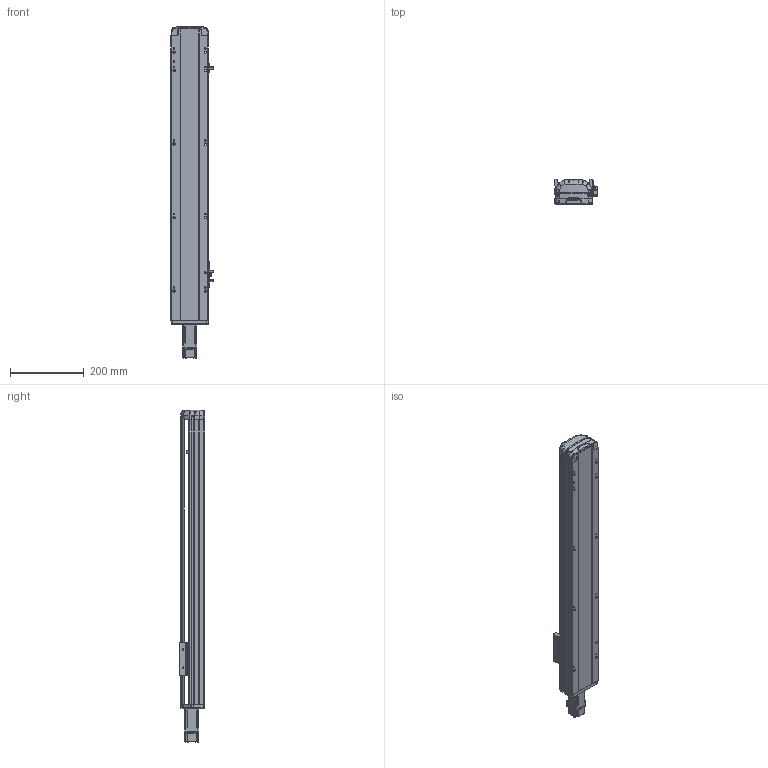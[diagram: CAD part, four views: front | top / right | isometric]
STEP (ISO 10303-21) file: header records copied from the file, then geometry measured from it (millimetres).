
FILE_DESCRIPTION (( 'STEP AP214' ), '1' );
FILE_NAME ('RTH10-XX-550-E-M10-C4.STEP', '2025-10-25T05:24:12', ( 'Microsoft' ), ( 'Microsoft' ), 'SwSTEP 2.0', 'SolidWorks 2018', '' );
FILE_SCHEMA (( 'AUTOMOTIVE_DESIGN' ));
Length unit declared in the file: millimetre
Products named in the file (9): N_RTH12-GY-004-賑釱^RTH10-XX-XX-E-M10-C4; N_OMRON EE-SX672 传感器^RTH10-XX-XX-E-M10-C4; RTH10-XX-550-E-M10-C4; N_RTH12-GY-001P^RTH10-XX-XX-E-M10-C4; N_RTH12-E-008-M10萇儂啣^RTH10-XX-XX-E-M10-C4; N_RTH12-E-011P-臏倰第菁釱^RTH10-XX-XX-E-M10-C4; N_RTH13-L-012覜茼え俋离^RTH10-XX-XX-E-M10-C4; N_RTH12-E-007P-奻裔^RTH10-XX-XX-E-M10-C4; N_P10^RTH10-XX-XX-E-M10-C4
Assembly tree (10 placements, depth 2):
  RTH10-XX-550-E-M10-C4
    N_RTH12-E-011P-臏倰第菁釱^RTH10-XX-XX-E-M10-C4
    N_RTH13-L-012覜茼え俋离^RTH10-XX-XX-E-M10-C4
    N_OMRON EE-SX672 传感器^RTH10-XX-XX-E-M10-C4  x3
    N_P10^RTH10-XX-XX-E-M10-C4
    N_RTH12-E-007P-奻裔^RTH10-XX-XX-E-M10-C4
    N_RTH12-E-008-M10萇儂啣^RTH10-XX-XX-E-M10-C4
    N_RTH12-GY-001P^RTH10-XX-XX-E-M10-C4
    N_RTH12-GY-004-賑釱^RTH10-XX-XX-E-M10-C4
Bounding box: 116.5 x 70 x 903.17 mm (x, y, z)
Volume: 3272271.5 mm3; surface area: 528944.5 mm2
Topology: 9 solids, 11 shells, 1952 faces, 5431 edges, 3562 vertices
Faces by surface type: plane 972, cylinder 473, bspline 472, cone 33, torus 2
Entity records: 58639 total; most frequent: CARTESIAN_POINT 23254, ORIENTED_EDGE 7942, DIRECTION 6115, EDGE_CURVE 3977, VERTEX_POINT 2606, VECTOR 2101, LINE 2101, AXIS2_PLACEMENT_3D 2007
